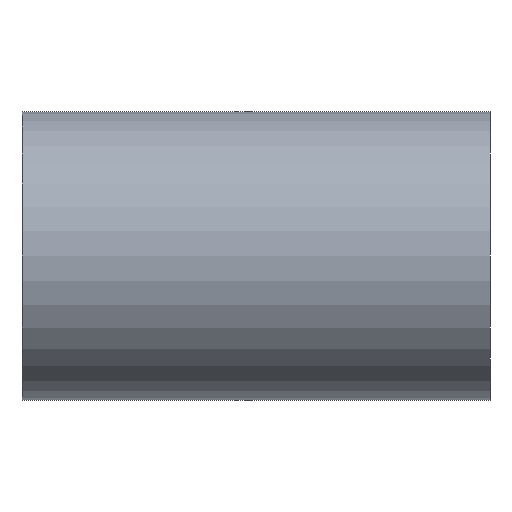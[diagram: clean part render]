
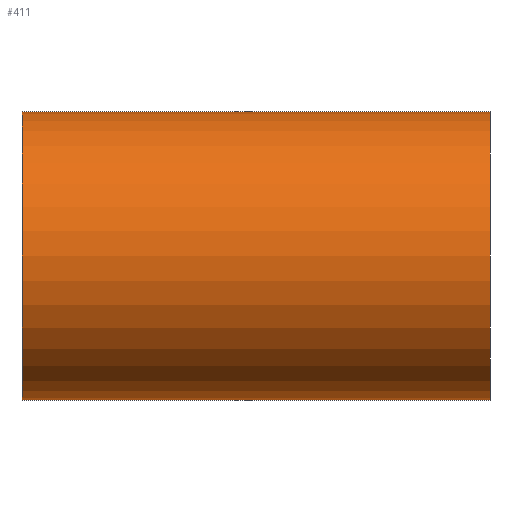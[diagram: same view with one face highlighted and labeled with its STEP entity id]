
A CAD part, front view. The second image highlights one B-rep face of the part: STEP entity #411.
In plain terms, the highlighted cylindrical face has radius 4 mm (diameter 8 mm), a partial arc.
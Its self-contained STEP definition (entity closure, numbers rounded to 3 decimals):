
#2 = VERTEX_POINT ( 'NONE', #57 ) ;
#57 = CARTESIAN_POINT ( 'NONE',  ( 6.5, 0., 4. ) ) ;
#74 = EDGE_CURVE ( 'NONE', #427, #2, #637, .T. ) ;
#89 = EDGE_CURVE ( 'NONE', #427, #505, #120, .T. ) ;
#97 = DIRECTION ( 'NONE',  ( 0., 0., 1. ) ) ;
#120 = LINE ( 'NONE', #347, #169 ) ;
#150 = CARTESIAN_POINT ( 'NONE',  ( 0., 0., 4. ) ) ;
#153 = CARTESIAN_POINT ( 'NONE',  ( -6.5, 0., 0. ) ) ;
#162 = DIRECTION ( 'NONE',  ( -1., 0., 0. ) ) ;
#169 = VECTOR ( 'NONE', #293, 1000. ) ;
#215 = CYLINDRICAL_SURFACE ( 'NONE', #466, 4. ) ;
#218 = EDGE_CURVE ( 'NONE', #2, #674, #269, .T. ) ;
#256 = DIRECTION ( 'NONE',  ( 0., 0., 1. ) ) ;
#269 = LINE ( 'NONE', #150, #488 ) ;
#271 = AXIS2_PLACEMENT_3D ( 'NONE', #153, #486, #256 ) ;
#291 = DIRECTION ( 'NONE',  ( 0., 0., 1. ) ) ;
#293 = DIRECTION ( 'NONE',  ( -1., 0., 0. ) ) ;
#294 = EDGE_CURVE ( 'NONE', #505, #674, #463, .T. ) ;
#303 = CARTESIAN_POINT ( 'NONE',  ( 6.5, 0., -4. ) ) ;
#347 = CARTESIAN_POINT ( 'NONE',  ( 0., 0., -4. ) ) ;
#383 = ORIENTED_EDGE ( 'NONE', *, *, #218, .T. ) ;
#411 = ADVANCED_FACE ( 'NONE', ( #718 ), #215, .T. ) ;
#427 = VERTEX_POINT ( 'NONE', #303 ) ;
#463 = CIRCLE ( 'NONE', #271, 4. ) ;
#465 = CARTESIAN_POINT ( 'NONE',  ( 6.5, 0., 0. ) ) ;
#466 = AXIS2_PLACEMENT_3D ( 'NONE', #561, #162, #97 ) ;
#478 = AXIS2_PLACEMENT_3D ( 'NONE', #465, #634, #291 ) ;
#486 = DIRECTION ( 'NONE',  ( -1., 0., 0. ) ) ;
#488 = VECTOR ( 'NONE', #702, 1000. ) ;
#505 = VERTEX_POINT ( 'NONE', #529 ) ;
#529 = CARTESIAN_POINT ( 'NONE',  ( -6.5, 0., -4. ) ) ;
#561 = CARTESIAN_POINT ( 'NONE',  ( 0., 0., 0. ) ) ;
#562 = ORIENTED_EDGE ( 'NONE', *, *, #294, .F. ) ;
#606 = CARTESIAN_POINT ( 'NONE',  ( -6.5, 0., 4. ) ) ;
#634 = DIRECTION ( 'NONE',  ( -1., 0., 0. ) ) ;
#637 = CIRCLE ( 'NONE', #478, 4. ) ;
#661 = EDGE_LOOP ( 'NONE', ( #727, #670, #383, #562 ) ) ;
#670 = ORIENTED_EDGE ( 'NONE', *, *, #74, .T. ) ;
#674 = VERTEX_POINT ( 'NONE', #606 ) ;
#702 = DIRECTION ( 'NONE',  ( -1., 0., 0. ) ) ;
#718 = FACE_OUTER_BOUND ( 'NONE', #661, .T. ) ;
#727 = ORIENTED_EDGE ( 'NONE', *, *, #89, .F. ) ;
